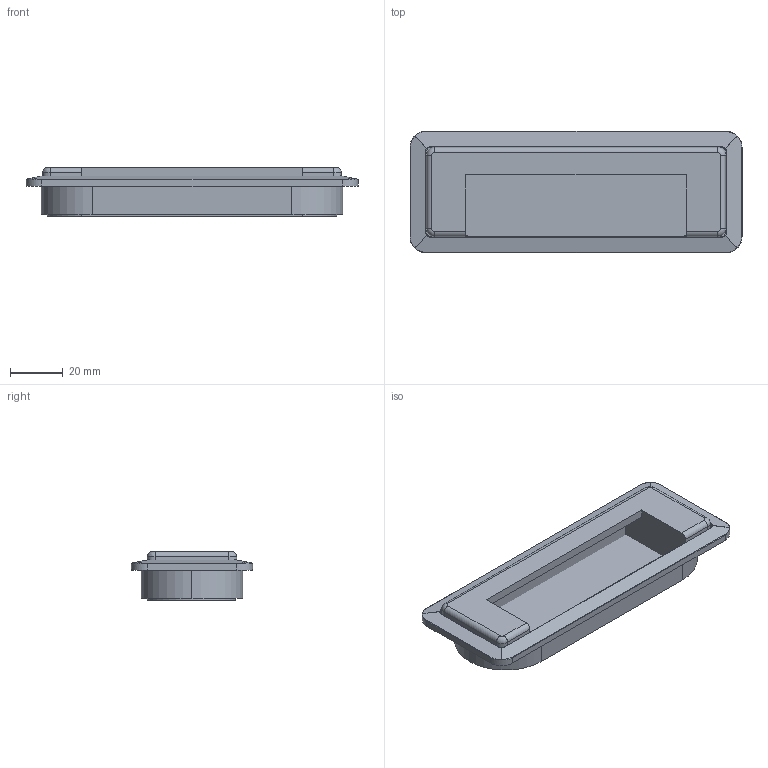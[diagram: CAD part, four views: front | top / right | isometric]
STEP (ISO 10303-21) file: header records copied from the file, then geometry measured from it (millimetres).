
FILE_DESCRIPTION (( 'STEP AP203' ), '1' );
FILE_NAME ('HP-003-²Õ¦X.STEP', '2015-11-18T07:36:26', ( '' ), ( '' ), 'SwSTEP 2.0', 'SolidWorks 2014', '' );
FILE_SCHEMA (( 'CONFIG_CONTROL_DESIGN' ));
Length unit declared in the file: millimetre
Products named in the file (1): HP-003-組合
Bounding box: 126 x 46 x 18.5 mm (x, y, z)
Volume: 33892.1 mm3; surface area: 33544.7 mm2
Topology: 3 solids, 3 shells, 139 faces, 339 edges, 210 vertices
Faces by surface type: cylinder 55, plane 52, bspline 16, sphere 12, torus 4
Entity records: 4356 total; most frequent: CARTESIAN_POINT 1057, DIRECTION 689, ORIENTED_EDGE 678, EDGE_CURVE 339, AXIS2_PLACEMENT_3D 258, VERTEX_POINT 210, VECTOR 173, LINE 173
